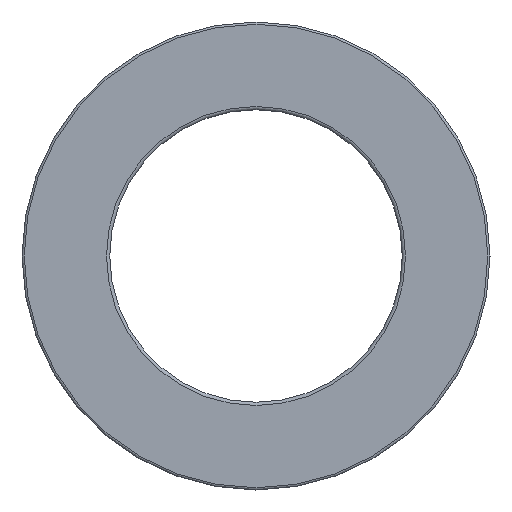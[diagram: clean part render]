
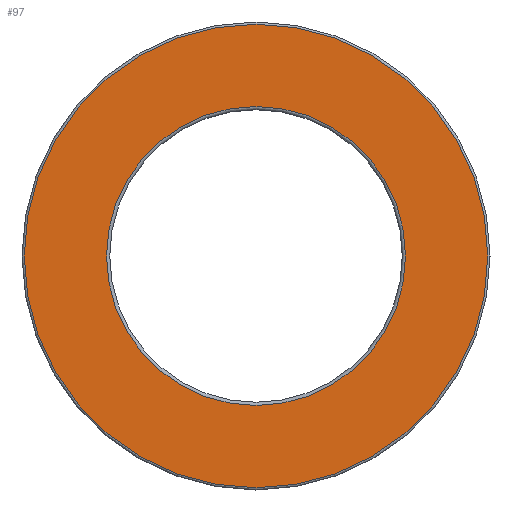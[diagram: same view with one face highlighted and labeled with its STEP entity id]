
A CAD part, left-side view. The second image highlights one B-rep face of the part: STEP entity #97.
In plain terms, the highlighted planar face has unit normal (-1, 0, 0).
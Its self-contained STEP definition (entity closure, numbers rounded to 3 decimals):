
#97=ADVANCED_FACE('',(#166,#167),#168,.F.);
#166=FACE_BOUND('',#238,.T.);
#167=FACE_OUTER_BOUND('',#239,.T.);
#168=PLANE('',#240);
#238=EDGE_LOOP('',(#354));
#239=EDGE_LOOP('',(#355));
#240=AXIS2_PLACEMENT_3D('',#356,#357,#358);
#354=ORIENTED_EDGE('',*,*,#386,.F.);
#355=ORIENTED_EDGE('',*,*,#387,.T.);
#356=CARTESIAN_POINT('',(0.0,39.619,0.0));
#357=DIRECTION('',(1.0,0.0,0.0));
#358=DIRECTION('',(0.0,0.0,-1.0));
#386=EDGE_CURVE('',#432,#432,#433,.T.);
#387=EDGE_CURVE('',#434,#434,#435,.T.);
#432=VERTEX_POINT('',#480);
#433=CIRCLE('',#481,25.558);
#434=VERTEX_POINT('',#482);
#435=CIRCLE('',#483,39.619);
#480=CARTESIAN_POINT('',(0.0,0.0,25.558));
#481=AXIS2_PLACEMENT_3D('',#550,#551,#552);
#482=CARTESIAN_POINT('',(0.0,0.0,39.619));
#483=AXIS2_PLACEMENT_3D('',#553,#554,#555);
#550=CARTESIAN_POINT('',(0.0,0.0,0.0));
#551=DIRECTION('',(-1.0,0.0,0.0));
#552=DIRECTION('',(0.0,0.0,1.0));
#553=CARTESIAN_POINT('',(0.0,0.0,0.0));
#554=DIRECTION('',(-1.0,0.0,0.0));
#555=DIRECTION('',(0.0,0.0,1.0));
